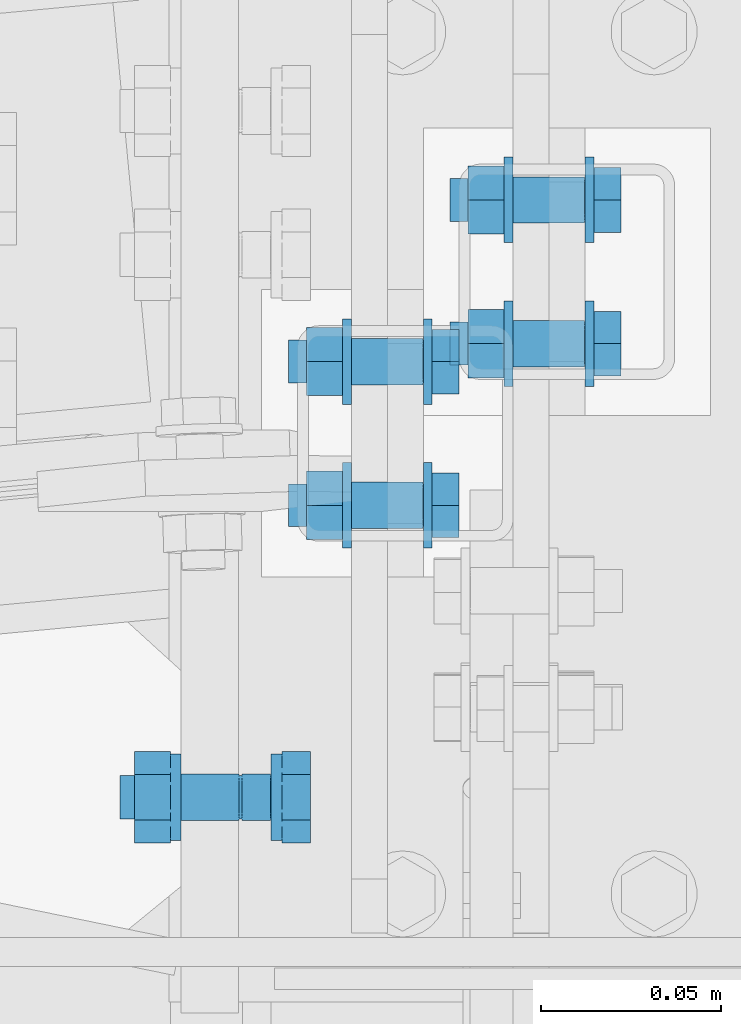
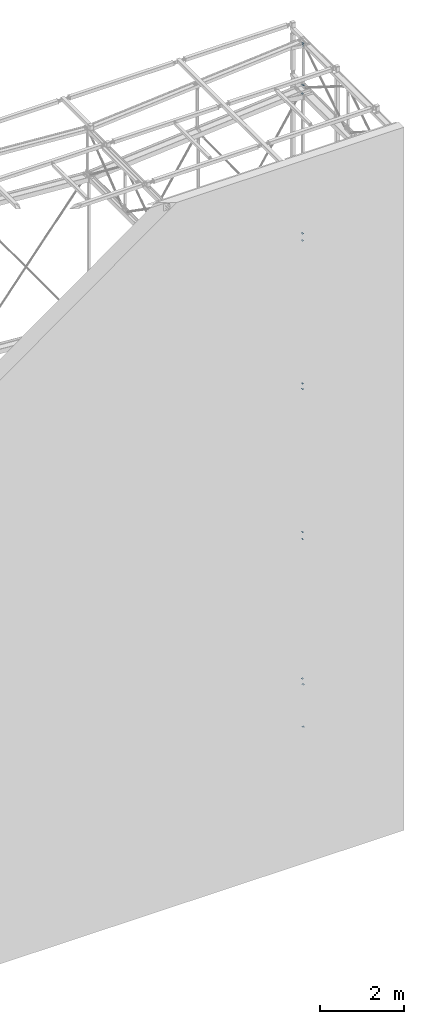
# One storey, part 270 of 271: 13 mechanical fasteners, 7 elements without a shape of their own.
"""IFC2X3 building model written with IfcOpenShell, lengths in millimetres."""

from ifc_helpers import new_model, si_unit, frame, origin_with_axes, origin_2d_with_axis, place, context, subcontext, project, spatial, polyline, circle, outline, extrude, source, transform, mapped, material, type_object, element, aggregate, save


model = new_model("IFC2X3")

# Units and contexts
model_context = context("Model", 3, precision=1e-05, world=origin_with_axes())
body_context = subcontext(model_context, "Body", "Model", "MODEL_VIEW")
ifc_project = project(units=[si_unit("LENGTHUNIT", "METRE", prefix="MILLI"), si_unit("AREAUNIT", "SQUARE_METRE"), si_unit("VOLUMEUNIT", "CUBIC_METRE"), si_unit("MASSUNIT", "GRAM", prefix="KILO"), si_unit("TIMEUNIT", "SECOND"), si_unit("PLANEANGLEUNIT", "RADIAN"), si_unit("SOLIDANGLEUNIT", "STERADIAN"), si_unit("THERMODYNAMICTEMPERATUREUNIT", "DEGREE_CELSIUS"), si_unit("LUMINOUSINTENSITYUNIT", "LUMEN")], contexts=[model_context])

# Site, building, storey
site_placement = place(None, origin_with_axes())
site = spatial("IfcSite", under=ifc_project, at=site_placement, Name="Undefined", CompositionType="ELEMENT")
building_placement = place(site_placement, origin_with_axes())
building = spatial("IfcBuilding", under=site, at=building_placement, Name="Undefined", CompositionType="ELEMENT")
storey_placement = place(building_placement, origin_with_axes())
storey = spatial("IfcBuildingStorey", under=building, at=storey_placement, Name="Undefined", CompositionType="ELEMENT", Elevation=0.0)

# Assembly, mechanical fasteners
assembly_1_placement = place(storey_placement, origin_with_axes())
assembly_1 = element("IfcElementAssembly", 1, at=assembly_1_placement, inside=storey, AssemblyPlace="NOTDEFINED", PredefinedType="RIGID_FRAME")
ifc_material = material(Name="Undefined")
mechanical_fastener_type = type_object("IfcMechanicalFastenerType", Name="Bolt assembly")
shared_shape_1 = source(origin_with_axes(), body_context, "Body", "SweptSolid", [
    extrude(circle(Radius=6.5, at=origin_2d_with_axis()), frame((0.0, -5.1, 0.0), z_axis=(0.0, 1.0, 0.0), x_axis=(1.0, 0.0, 0.0)), (0.0, 0.0, 1.0), 10.1),
    extrude(circle(Radius=6.5, at=origin_2d_with_axis()), frame((0.0, -14.9000000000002, 0.0), z_axis=(0.0, 1.0, 0.0), x_axis=(1.0, 0.0, 0.0)), (0.0, 0.0, 1.0), 10.0),
    extrude(outline(polyline([(10.39230484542, 0.0), (5.19615242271, 9.00000000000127), (-5.19615242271, 9.00000000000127), (-10.39230484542, 0.0), (-5.19615242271, -9.00000000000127), (5.19615242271, -9.00000000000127), (10.39230484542, 0.0)])), frame((0.0, -25.0000000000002, 0.0), z_axis=(0.0, 1.0, 0.0), x_axis=(1.0, 0.0, 0.0)), (0.0, 0.0, 1.0), 7.5),
    extrude(circle(Radius=6.0, at=origin_2d_with_axis()), frame((0.0, -17.5000000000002, 0.0), z_axis=(0.0, 1.0, 0.0), x_axis=(1.0, 0.0, 0.0)), (0.0, 0.0, 1.0), 40.0),
    extrude(circle(Radius=12.0, at=origin_2d_with_axis()), frame((0.0, -17.5000000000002, 0.0), z_axis=(0.0, 1.0, 0.0), x_axis=(1.0, 0.0, 0.0)), (0.0, 0.0, 1.0), 2.5),
    extrude(circle(Radius=12.0, at=origin_2d_with_axis()), frame((0.0, 5.00000000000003, 0.0), z_axis=(0.0, 1.0, 0.0), x_axis=(1.0, 0.0, 0.0)), (0.0, 0.0, 1.0), 2.5),
    extrude(outline(polyline([(10.96965511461, 0.0), (5.484827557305, 9.50000000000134), (-5.484827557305, 9.50000000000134), (-10.96965511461, 0.0), (-5.484827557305, -9.50000000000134), (5.484827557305, -9.50000000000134), (10.96965511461, 0.0)])), frame((0.0, 7.50000000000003, 0.0), z_axis=(0.0, 1.0, 0.0), x_axis=(1.0, 0.0, 0.0)), (0.0, 0.0, 1.0), 10.0),
])
mechanical_fastener_1_placement = place(assembly_1_placement, frame((12563.751374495, 4292.19355050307, 18516.049999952), z_axis=(0.0, 1.0, 0.0), x_axis=(0.0, 0.0, -1.0)))
mechanical_fastener_1 = element("IfcMechanicalFastener", 2, at=mechanical_fastener_1_placement, type_object=mechanical_fastener_type, material=ifc_material, Name="Bolt assembly", NominalDiameter=12.0, NominalLength=40.0, context=body_context, shape_type="MappedRepresentation", body=[
    mapped(shared_shape_1, transform((0.0, 0.0, -20.0))),
    mapped(shared_shape_1, transform((0.0, 0.0, 20.0))),
])
mechanical_fastener_2_placement = place(assembly_1_placement, frame((12563.751374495, 4292.19355050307, 14452.649999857), z_axis=(0.0, -1.0, 0.0), x_axis=(0.0, 0.0, 1.0)))
mechanical_fastener_2 = element("IfcMechanicalFastener", 3, at=mechanical_fastener_2_placement, type_object=mechanical_fastener_type, material=ifc_material, Name="Bolt assembly", NominalDiameter=12.0, NominalLength=40.0, context=body_context, shape_type="MappedRepresentation", body=[
    mapped(shared_shape_1, transform((0.0, 0.0, -20.0))),
    mapped(shared_shape_1, transform((0.0, 0.0, 20.0))),
])
aggregate(assembly_1, [mechanical_fastener_1, mechanical_fastener_2])

assembly_2_placement = place(storey_placement, origin_with_axes())
assembly_2 = element("IfcElementAssembly", 4, at=assembly_2_placement, inside=storey, AssemblyPlace="NOTDEFINED", PredefinedType="RIGID_FRAME")
mechanical_fastener_3_placement = place(assembly_2_placement, frame((12563.751374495, 4292.19355050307, 1492.64999985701), z_axis=(0.0, -1.0, 0.0), x_axis=(0.0, 0.0, 1.0)))
mechanical_fastener_3 = element("IfcMechanicalFastener", 5, at=mechanical_fastener_3_placement, type_object=mechanical_fastener_type, material=ifc_material, Name="Bolt assembly", NominalDiameter=12.0, NominalLength=40.0, context=body_context, shape_type="MappedRepresentation", body=[
    mapped(shared_shape_1, transform((0.0, 0.0, -20.0))),
    mapped(shared_shape_1, transform((0.0, 0.0, 20.0))),
])
mechanical_fastener_4_placement = place(assembly_2_placement, frame((12563.751374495, 4292.19355050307, 5556.04999995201), z_axis=(0.0, 1.0, 0.0), x_axis=(0.0, 0.0, -1.0)))
mechanical_fastener_4 = element("IfcMechanicalFastener", 6, at=mechanical_fastener_4_placement, type_object=mechanical_fastener_type, material=ifc_material, Name="Bolt assembly", NominalDiameter=12.0, NominalLength=40.0, context=body_context, shape_type="MappedRepresentation", body=[
    mapped(shared_shape_1, transform((0.0, 0.0, -20.0))),
    mapped(shared_shape_1, transform((0.0, 0.0, 20.0))),
])
aggregate(assembly_2, [mechanical_fastener_3, mechanical_fastener_4])

# Assembly, mechanical fastener
assembly_3_placement = place(storey_placement, origin_with_axes())
assembly_3 = element("IfcElementAssembly", 7, at=assembly_3_placement, inside=storey, AssemblyPlace="NOTDEFINED", PredefinedType="RIGID_FRAME")
mechanical_fastener_5_placement = place(assembly_3_placement, frame((12608.751374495, 4337.19355050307, 55.0000000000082), z_axis=(0.0, -1.0, 0.0), x_axis=(0.0, 0.0, 1.0)))
mechanical_fastener_5 = element("IfcMechanicalFastener", 8, at=mechanical_fastener_5_placement, type_object=mechanical_fastener_type, material=ifc_material, Name="Bolt assembly", NominalDiameter=12.0, NominalLength=40.0, context=body_context, shape_type="MappedRepresentation", body=[
    mapped(shared_shape_1, transform((0.0, 0.0, -20.0))),
    mapped(shared_shape_1, transform((0.0, 0.0, 20.0))),
])

# Assembly, mechanical fasteners
assembly_4_placement = place(storey_placement, origin_with_axes())
assembly_4 = element("IfcElementAssembly", 9, at=assembly_4_placement, inside=storey, AssemblyPlace="NOTDEFINED", PredefinedType="RIGID_FRAME")
mechanical_fastener_6_placement = place(assembly_4_placement, frame((12608.751374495, 4337.19355050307, 19946.699999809), z_axis=(0.0, 1.0, 0.0), x_axis=(0.0, 0.0, -1.0)))
mechanical_fastener_6 = element("IfcMechanicalFastener", 10, at=mechanical_fastener_6_placement, type_object=mechanical_fastener_type, material=ifc_material, Name="Bolt assembly", NominalDiameter=12.0, NominalLength=40.0, context=body_context, shape_type="MappedRepresentation", body=[
    mapped(shared_shape_1, transform((0.0, 0.0, -20.0))),
    mapped(shared_shape_1, transform((0.0, 0.0, 20.0))),
])
mechanical_fastener_7_placement = place(assembly_4_placement, frame((12608.751374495, 4337.19355050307, 18722.649999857), z_axis=(0.0, -1.0, 0.0), x_axis=(0.0, 0.0, 1.0)))
mechanical_fastener_7 = element("IfcMechanicalFastener", 11, at=mechanical_fastener_7_placement, type_object=mechanical_fastener_type, material=ifc_material, Name="Bolt assembly", NominalDiameter=12.0, NominalLength=40.0, context=body_context, shape_type="MappedRepresentation", body=[
    mapped(shared_shape_1, transform((0.0, 0.0, -20.0))),
    mapped(shared_shape_1, transform((0.0, 0.0, 20.0))),
])
aggregate(assembly_4, [mechanical_fastener_6, mechanical_fastener_7])

# Mechanical fastener
mechanical_fastener_8_placement = place(assembly_3_placement, frame((12608.751374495, 4337.19355050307, 1286.04999995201), z_axis=(0.0, 1.0, 0.0), x_axis=(0.0, 0.0, -1.0)))
mechanical_fastener_8 = element("IfcMechanicalFastener", 12, at=mechanical_fastener_8_placement, type_object=mechanical_fastener_type, material=ifc_material, Name="Bolt assembly", NominalDiameter=12.0, NominalLength=40.0, context=body_context, shape_type="MappedRepresentation", body=[
    mapped(shared_shape_1, transform((0.0, 0.0, -20.0))),
    mapped(shared_shape_1, transform((0.0, 0.0, 20.0))),
])

aggregate(assembly_3, [mechanical_fastener_5, mechanical_fastener_8])

# Assembly, mechanical fastener
assembly_5_placement = place(storey_placement, origin_with_axes())
assembly_5 = element("IfcElementAssembly", 13, at=assembly_5_placement, inside=storey, AssemblyPlace="NOTDEFINED", PredefinedType="RIGID_FRAME")
mechanical_fastener_9_placement = place(assembly_5_placement, frame((12563.751374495, 4292.19355050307, 14246.049999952), z_axis=(0.0, 1.0, 0.0), x_axis=(0.0, 0.0, -1.0)))
mechanical_fastener_9 = element("IfcMechanicalFastener", 14, at=mechanical_fastener_9_placement, type_object=mechanical_fastener_type, material=ifc_material, Name="Bolt assembly", NominalDiameter=12.0, NominalLength=40.0, context=body_context, shape_type="MappedRepresentation", body=[
    mapped(shared_shape_1, transform((0.0, 0.0, -20.0))),
    mapped(shared_shape_1, transform((0.0, 0.0, 20.0))),
])

# Assembly, mechanical fasteners
assembly_6_placement = place(storey_placement, origin_with_axes())
assembly_6 = element("IfcElementAssembly", 15, at=assembly_6_placement, inside=storey, AssemblyPlace="NOTDEFINED", PredefinedType="RIGID_FRAME")
mechanical_fastener_10_placement = place(assembly_6_placement, frame((12563.751374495, 4292.19355050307, 9926.04999995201), z_axis=(0.0, 1.0, 0.0), x_axis=(0.0, 0.0, -1.0)))
mechanical_fastener_10 = element("IfcMechanicalFastener", 16, at=mechanical_fastener_10_placement, type_object=mechanical_fastener_type, material=ifc_material, Name="Bolt assembly", NominalDiameter=12.0, NominalLength=40.0, context=body_context, shape_type="MappedRepresentation", body=[
    mapped(shared_shape_1, transform((0.0, 0.0, -20.0))),
    mapped(shared_shape_1, transform((0.0, 0.0, 20.0))),
])
mechanical_fastener_11_placement = place(assembly_6_placement, frame((12563.751374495, 4292.19355050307, 5762.64999985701), z_axis=(0.0, -1.0, 0.0), x_axis=(0.0, 0.0, 1.0)))
mechanical_fastener_11 = element("IfcMechanicalFastener", 17, at=mechanical_fastener_11_placement, type_object=mechanical_fastener_type, material=ifc_material, Name="Bolt assembly", NominalDiameter=12.0, NominalLength=40.0, context=body_context, shape_type="MappedRepresentation", body=[
    mapped(shared_shape_1, transform((0.0, 0.0, -20.0))),
    mapped(shared_shape_1, transform((0.0, 0.0, 20.0))),
])
aggregate(assembly_6, [mechanical_fastener_10, mechanical_fastener_11])

# Mechanical fastener
mechanical_fastener_12_placement = place(assembly_5_placement, frame((12563.751374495, 4292.19355050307, 10082.649999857), z_axis=(0.0, -1.0, 0.0), x_axis=(0.0, 0.0, 1.0)))
mechanical_fastener_12 = element("IfcMechanicalFastener", 18, at=mechanical_fastener_12_placement, type_object=mechanical_fastener_type, material=ifc_material, Name="Bolt assembly", NominalDiameter=12.0, NominalLength=40.0, context=body_context, shape_type="MappedRepresentation", body=[
    mapped(shared_shape_1, transform((0.0, 0.0, -20.0))),
    mapped(shared_shape_1, transform((0.0, 0.0, 20.0))),
])

aggregate(assembly_5, [mechanical_fastener_9, mechanical_fastener_12])

# Assembly, mechanical fastener
assembly_7_placement = place(storey_placement, origin_with_axes())
assembly_7 = element("IfcElementAssembly", 19, at=assembly_7_placement, inside=storey, AssemblyPlace="NOTDEFINED", PredefinedType="RIGID_FRAME")
shared_shape_2 = source(origin_with_axes(), body_context, "Body", "SweptSolid", [
    extrude(circle(Radius=6.5, at=origin_2d_with_axis()), frame((0.0, -15.9000000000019, 0.0), z_axis=(0.0, 1.0, 0.0), x_axis=(1.0, 0.0, 0.0)), (0.0, 0.0, 1.0), 8.0),
    extrude(circle(Radius=6.5, at=origin_2d_with_axis()), frame((0.0, -7.10000000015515, 0.0), z_axis=(0.0, 1.0, 0.0), x_axis=(1.0, 0.0, 0.0)), (0.0, 0.0, 1.0), 16.1),
    extrude(outline(polyline([(12.70170592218, 0.0), (6.35085296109, 11.0000000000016), (-6.35085296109, 11.0000000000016), (-12.70170592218, 0.0), (-6.35085296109, -11.0000000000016), (6.35085296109, -11.0000000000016), (12.70170592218, 0.0)])), frame((0.0, -27.0, 0.0), z_axis=(0.0, 1.0, 0.0), x_axis=(1.0, 0.0, 0.0)), (0.0, 0.0, 1.0), 8.0),
    extrude(circle(Radius=6.0, at=origin_2d_with_axis()), frame((0.0, -19.0000000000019, 0.0), z_axis=(0.0, 1.0, 0.0), x_axis=(1.0, 0.0, 0.0)), (0.0, 0.0, 1.0), 45.0),
    extrude(circle(Radius=12.0, at=origin_2d_with_axis()), frame((0.0, -19.0000000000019, 0.0), z_axis=(0.0, 1.0, 0.0), x_axis=(1.0, 0.0, 0.0)), (0.0, 0.0, 1.0), 3.0),
    extrude(circle(Radius=12.0, at=origin_2d_with_axis()), frame((0.0, 9.0, 0.0), z_axis=(0.0, 1.0, 0.0), x_axis=(1.0, 0.0, 0.0)), (0.0, 0.0, 1.0), 3.0),
    extrude(outline(polyline([(12.70170592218, 0.0), (6.35085296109, 11.0000000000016), (-6.35085296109, 11.0000000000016), (-12.70170592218, 0.0), (-6.35085296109, -11.0000000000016), (6.35085296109, -11.0000000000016), (12.70170592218, 0.0)])), frame((0.0, 11.9999999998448, 0.0), z_axis=(0.0, 1.0, 0.0), x_axis=(1.0, 0.0, 0.0)), (0.0, 0.0, 1.0), 10.0),
])
mechanical_fastener_13_placement = place(assembly_7_placement, frame((12520.3756870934, 4190.93190508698, 20004.3499999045), z_axis=(0.0, 0.0, 1.0), x_axis=(0.0, 1.0, 0.0)))
mechanical_fastener_13 = element("IfcMechanicalFastener", 20, at=mechanical_fastener_13_placement, type_object=mechanical_fastener_type, material=ifc_material, Name="Bolt assembly", NominalDiameter=12.0, NominalLength=45.0, context=body_context, shape_type="MappedRepresentation", body=[
    mapped(shared_shape_2, transform((0.0, 0.0, -25.0))),
    mapped(shared_shape_2, transform((0.0, 0.0, 25.0))),
])
aggregate(assembly_7, [mechanical_fastener_13])

save(model, "model.ifc")
